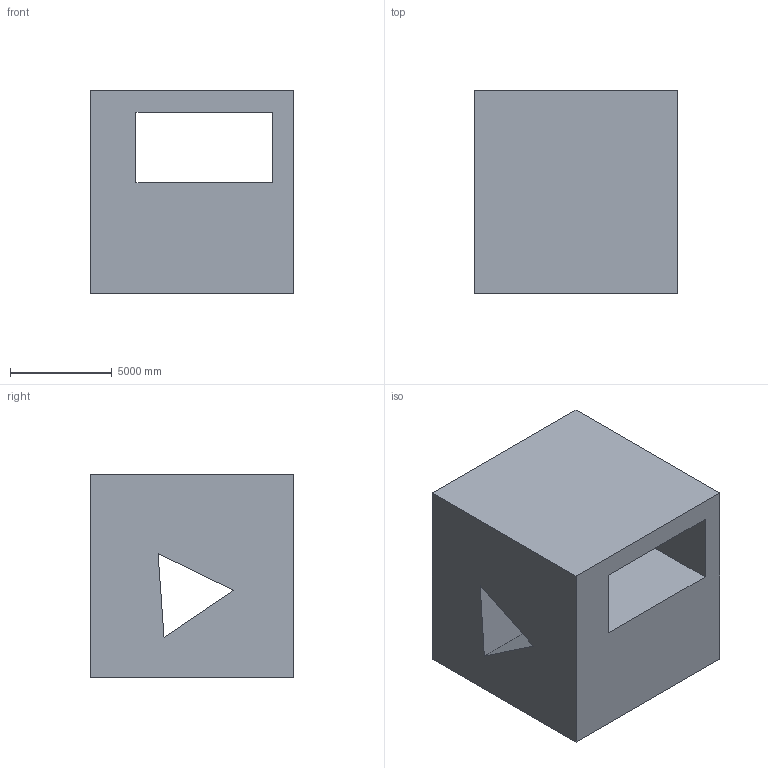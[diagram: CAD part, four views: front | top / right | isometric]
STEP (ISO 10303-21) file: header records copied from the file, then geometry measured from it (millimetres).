
FILE_DESCRIPTION (( 'STEP AP203' ), '1' );
FILE_NAME ('70.STEP', '2022-07-28T13:32:35', ( 'user' ), ( '' ), 'SwSTEP 2.0', 'SolidWorks 2021', '' );
FILE_SCHEMA (( 'CONFIG_CONTROL_DESIGN' ));
Length unit declared in the file: centimetre
Products named in the file (1): 70
Bounding box: 10000 x 10000 x 10000 mm (x, y, z)
Volume: 695320675008.7 mm3; surface area: 842431994 mm2
Topology: 1 solids, 1 shells, 14 faces, 42 edges, 28 vertices
Faces by surface type: plane 14
Entity records: 555 total; most frequent: CARTESIAN_POINT 85, ORIENTED_EDGE 84, DIRECTION 72, LINE 42, VECTOR 42, EDGE_CURVE 42, VERTEX_POINT 28, EDGE_LOOP 18
